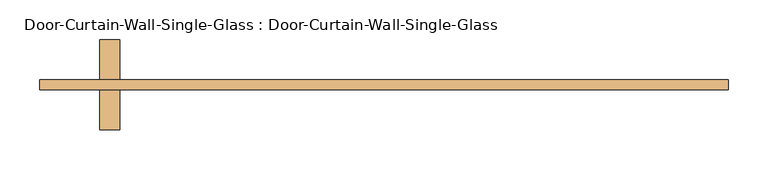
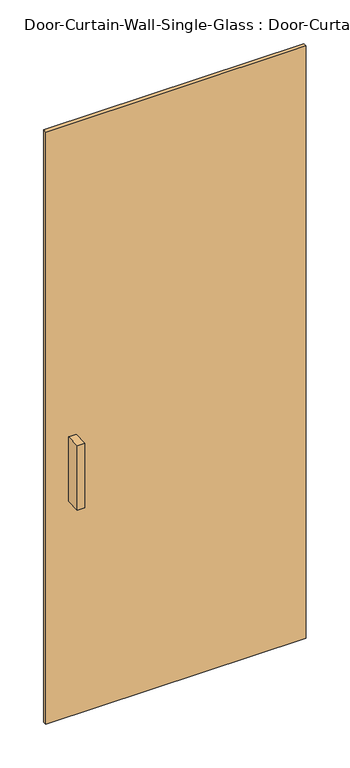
"""IFC4 building model written with IfcOpenShell, lengths in millimetres: door geometry, Door-Curtain-Wall-Single-Glass : Door-Curtain-Wall-Single-Glass."""

from ifc_helpers import new_model, si_unit, frame, origin, origin_with_axes, place, context, project, spatial, polyline, outline, extrude, source, transform, mapped, element, save


def door_curtain_wall_single_glass_door_curtain_wall_single_9586b40b(model_context):
    return source(origin(), model_context, "Body", "SweptSolid", [
        extrude(outline(polyline([(435.9649128, 0.0), (-435.9649128, 0.0), (-435.9649128, 12.7), (435.9649128, 12.7), (435.9649128, 0.0)])), origin_with_axes(), (0.0, 0.0, 1.0), 2095.5),
        extrude(outline(polyline([(-334.3649128, 63.5), (-334.3649128, 12.7), (-359.7649128, 12.7), (-359.7649128, 63.5), (-334.3649128, 63.5)])), frame((0.0, 0.0, 762.0), z_axis=(0.0, 0.0, 1.0), x_axis=(1.0, 0.0, 0.0)), (0.0, 0.0, 1.0), 228.6),
        extrude(outline(polyline([(-359.7649128, -50.8), (-359.7649128, 0.0), (-334.3649128, 0.0), (-334.3649128, -50.8), (-359.7649128, -50.8)])), frame((0.0, 0.0, 762.0), z_axis=(0.0, 0.0, 1.0), x_axis=(1.0, 0.0, 0.0)), (0.0, 0.0, 1.0), 228.6),
    ])


if __name__ == "__main__":
    model = new_model("IFC4")
    model_context = context("Model", 3, world=origin())
    ifc_project = project(units=[si_unit("LENGTHUNIT", "METRE", prefix="MILLI")], contexts=[model_context])
    site = spatial("IfcSite", under=ifc_project)
    building = spatial("IfcBuilding", under=site)
    placement = place(None, origin())
    door_curtain_wall_single_glass_door_curtain_wall_single_shape = door_curtain_wall_single_glass_door_curtain_wall_single_9586b40b(model_context)
    element("IfcDoor", 1, ObjectType="Door-Curtain-Wall-Single-Glass : Door-Curtain-Wall-Single-Glass", at=placement, inside=building, context=model_context, shape_type="MappedRepresentation", body=[
        mapped(door_curtain_wall_single_glass_door_curtain_wall_single_shape, transform((0.0, 0.0, 0.0), x_axis=(1.0, 0.0, 0.0), y_axis=(0.0, 1.0, 0.0), z_axis=(0.0, 0.0, 1.0))),
    ])
    save(model, "model.ifc")
